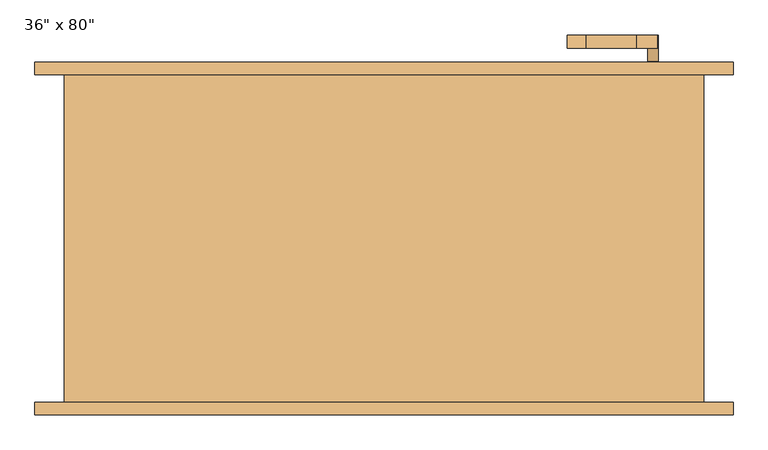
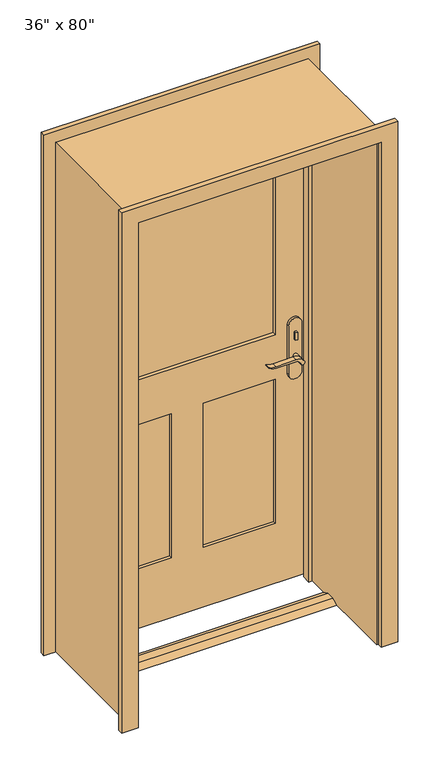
"""IFC4 building model written with IfcOpenShell, lengths in millimetres: door geometry."""

from ifc_helpers import new_model, si_unit, point, frame, frame_2d, origin, place, context, project, spatial, polyline, circle_curve, trimmed, segment, composite_curve, outline, extrude, faceted_brep, source, transform, mapped, element, save


def door_9a8c5ecc(model_context):
    return source(origin(), model_context, "Body", "SolidModel", [
        extrude(outline(polyline([(38.1, 12.7), (73.025, 12.7), (98.425, 0.0), (12.7, 0.0), (38.1, 12.7)])), frame((-457.2, 0.0, 0.0), z_axis=(1.0, 0.0, 0.0), x_axis=(0.0, 1.0, 0.0)), (0.0, 0.0, 1.0), 914.4),
        extrude(outline(polyline([(411.4, 189.55), (401.4, 189.55), (401.4, 199.55), (411.4, 199.55), (411.4, 189.55)])), frame((0.0, 0.0, 981.9), z_axis=(0.0, 0.0, 1.0), x_axis=(1.0, 0.0, 0.0)), (0.0, 0.0, 1.0), 30.0),
        extrude(outline(composite_curve([segment(trimmed(circle_curve(frame_2d((996.9, 406.4)), 8.0), [point((996.9, 398.4))], [point((996.9, 414.4))], False, "CARTESIAN"), True, "CONTINUOUS"), segment(trimmed(circle_curve(frame_2d((996.9, 406.4)), 8.0), [point((996.9, 414.4))], [point((996.9, 398.4))], False, "CARTESIAN"), True, "CONTINUOUS")], self_intersect=False)), frame((0.0, 254.475, 0.0), z_axis=(0.0, 1.0, 0.0), x_axis=(0.0, 0.0, 1.0)), (0.0, 0.0, 1.0), 10.0),
        extrude(outline(composite_curve([segment(trimmed(circle_curve(frame_2d((897.1555521, 382.7324871)), 37.2832219), [point((919.0523287, 412.9081363))], [point((934.4, 381.0325667))], False, "CARTESIAN"), True, "CONTINUOUS"), segment(polyline([(934.4, 381.0325667), (934.4, 304.7564091)]), True, "CONTINUOUS"), segment(trimmed(circle_curve(frame_2d((1017.6850638, 304.8227909)), 83.2850902), [point((934.4, 304.7564091))], [point((939.4, 276.4))], True, "CARTESIAN"), True, "CONTINUOUS"), segment(polyline([(939.4, 276.4), (936.6135558, 276.4)]), True, "CONTINUOUS"), segment(trimmed(circle_curve(frame_2d((986.6709207, 308.3396612)), 59.3791355), [point((936.6135558, 276.4))], [point((927.4, 304.7564091))], False, "CARTESIAN"), True, "CONTINUOUS"), segment(polyline([(927.4, 304.7564091), (927.4, 381.0138099)]), True, "CONTINUOUS"), segment(trimmed(circle_curve(frame_2d((909.2738613, 381.0138099)), 18.1261387), [point((927.4, 381.0138099))], [point((914.4, 398.4))], True, "CARTESIAN"), True, "CONTINUOUS"), segment(trimmed(circle_curve(frame_2d((914.4, 406.4)), 8.0), [point((914.4, 398.4))], [point((919.0523287, 412.9081363))], False, "CARTESIAN"), True, "CONTINUOUS")], self_intersect=False)), frame((0.0, 149.55, 0.0), z_axis=(0.0, 1.0, 0.0), x_axis=(0.0, 0.0, 1.0)), (0.0, 0.0, 1.0), 20.0),
        extrude(outline(composite_curve([segment(trimmed(circle_curve(frame_2d((914.4, 406.4)), 8.0), [point((914.3999903, 398.4))], [point((919.0523287, 412.9081363))], False, "CARTESIAN"), True, "CONTINUOUS"), segment(trimmed(circle_curve(frame_2d((897.1555521, 382.7324871)), 37.2832219), [point((919.0523287, 412.9081363))], [point((934.4, 381.0325667))], False, "CARTESIAN"), True, "CONTINUOUS"), segment(polyline([(934.4, 381.0325667), (934.4, 304.7564091)]), True, "CONTINUOUS"), segment(trimmed(circle_curve(frame_2d((1017.6850638, 304.8227909)), 83.2850902), [point((934.4, 304.7564091))], [point((939.4, 276.4))], True, "CARTESIAN"), True, "CONTINUOUS"), segment(polyline([(939.4, 276.4), (936.6135558, 276.4)]), True, "CONTINUOUS"), segment(trimmed(circle_curve(frame_2d((986.6709207, 308.3396612)), 59.3791355), [point((936.6135558, 276.4))], [point((927.4, 304.7564091))], False, "CARTESIAN"), True, "CONTINUOUS"), segment(polyline([(927.4, 304.7564091), (927.4, 381.0138122)]), True, "CONTINUOUS"), segment(trimmed(circle_curve(frame_2d((909.2738682, 381.0138122)), 18.1261318), [point((927.4, 381.0138122))], [point((914.3999903, 398.4))], True, "CARTESIAN"), True, "CONTINUOUS")], self_intersect=False)), frame((0.0, 284.475, 0.0), z_axis=(0.0, 1.0, 0.0), x_axis=(0.0, 0.0, 1.0)), (0.0, 0.0, 1.0), 20.0),
        extrude(outline(composite_curve([segment(trimmed(circle_curve(frame_2d((914.4, 406.4)), 8.0), [point((914.4, 398.4))], [point((914.4, 414.4))], False, "CARTESIAN"), True, "CONTINUOUS"), segment(trimmed(circle_curve(frame_2d((914.4, 406.4)), 8.0), [point((914.4, 414.4))], [point((914.4, 398.4))], False, "CARTESIAN"), True, "CONTINUOUS")], self_intersect=False)), frame((0.0, 169.55, 0.0), z_axis=(0.0, 1.0, 0.0), x_axis=(0.0, 0.0, 1.0)), (0.0, 0.0, 1.0), 30.0),
        extrude(outline(composite_curve([segment(trimmed(circle_curve(frame_2d((914.4, 406.4)), 8.0), [point((914.4, 398.4))], [point((914.4, 414.4))], False, "CARTESIAN"), True, "CONTINUOUS"), segment(trimmed(circle_curve(frame_2d((914.4, 406.4)), 8.0), [point((914.4, 414.4))], [point((914.4, 398.4))], False, "CARTESIAN"), True, "CONTINUOUS")], self_intersect=False)), frame((0.0, 254.475, 0.0), z_axis=(0.0, 1.0, 0.0), x_axis=(0.0, 0.0, 1.0)), (0.0, 0.0, 1.0), 30.0),
        extrude(outline(composite_curve([segment(polyline([(844.4, 431.4), (1039.4, 431.4)]), True, "CONTINUOUS"), segment(trimmed(circle_curve(frame_2d((1039.4, 406.4)), 25.0), [point((1039.4, 431.4))], [point((1039.4, 381.4))], False, "CARTESIAN"), True, "CONTINUOUS"), segment(polyline([(1039.4, 381.4), (844.4, 381.4)]), True, "CONTINUOUS"), segment(trimmed(circle_curve(frame_2d((844.4, 406.4)), 25.0), [point((844.4, 381.4))], [point((844.4, 431.4))], False, "CARTESIAN"), True, "CONTINUOUS")], self_intersect=False)), frame((0.0, 199.55, 0.0), z_axis=(0.0, 1.0, 0.0), x_axis=(0.0, 0.0, 1.0)), (0.0, 0.0, 1.0), 10.0),
        extrude(outline(composite_curve([segment(polyline([(844.4, 431.4), (1039.4, 431.4)]), True, "CONTINUOUS"), segment(trimmed(circle_curve(frame_2d((1039.4, 406.4)), 25.0), [point((1039.4, 431.4))], [point((1039.4, 381.4))], False, "CARTESIAN"), True, "CONTINUOUS"), segment(polyline([(1039.4, 381.4), (844.4, 381.4)]), True, "CONTINUOUS"), segment(trimmed(circle_curve(frame_2d((844.4, 406.4)), 25.0), [point((844.4, 381.4))], [point((844.4, 431.4))], False, "CARTESIAN"), True, "CONTINUOUS")], self_intersect=False)), frame((0.0, 244.475, 0.0), z_axis=(0.0, 1.0, 0.0), x_axis=(0.0, 0.0, 1.0)), (0.0, 0.0, 1.0), 10.0),
        extrude(outline(polyline([(2032.0, -457.2), (12.7, -457.2), (12.7, 457.2), (2032.0, 457.2), (2032.0, -457.2)]), holes=[polyline([(1016.0, -336.55), (1911.35, -336.55), (1911.35, 336.55), (1016.0, 336.55), (1016.0, -336.55)]), polyline([(835.025, -60.325), (254.0, -60.325), (254.0, -336.55), (835.025, -336.55), (835.025, -60.325)]), polyline([(835.025, 336.55), (254.0, 336.55), (254.0, 60.325), (835.025, 60.325), (835.025, 336.55)])]), frame((0.0, 209.55, 0.0), z_axis=(0.0, 1.0, 0.0), x_axis=(0.0, 0.0, 1.0)), (0.0, 0.0, 1.0), 34.925),
        faceted_brep([(482.6, 244.475, 0.0), (482.6, -250.825, 0.0), (457.2, -250.825, 0.0), (457.2, 174.625, 0.0), (444.5, 174.625, 0.0), (444.5, 209.55, 0.0), (457.2, 209.55, 0.0), (457.2, 244.475, 0.0), (482.6, 244.475, 2057.4), (482.6, -250.825, 2057.4), (-482.6, -250.825, 2057.4), (-482.6, -250.825, 0.0), (-457.2, -250.825, 0.0), (-457.2, -250.825, 2032.0), (457.2, -250.825, 2032.0), (457.2, 174.625, 2032.0), (-457.2, 174.625, 2032.0), (-457.2, 174.625, 0.0), (-444.5, 174.625, 0.0), (-444.5, 174.625, 2019.3), (444.5, 174.625, 2019.3), (444.5, 209.55, 2019.3), (-444.5, 209.55, 2019.3), (-444.5, 209.55, 0.0), (-457.2, 209.55, 0.0), (-457.2, 209.55, 2032.0), (457.2, 209.55, 2032.0), (457.2, 244.475, 2032.0), (-457.2, 244.475, 2032.0), (-457.2, 244.475, 0.0), (-482.6, 244.475, 0.0), (-482.6, 244.475, 2057.4)], [[[0, 1, 2, 3, 4, 5, 6, 7]], [[1, 0, 8, 9]], [[2, 1, 9, 10, 11, 12, 13, 14]], [[3, 2, 14, 15]], [[4, 3, 15, 16, 17, 18, 19, 20]], [[5, 4, 20, 21]], [[6, 5, 21, 22, 23, 24, 25, 26]], [[7, 6, 26, 27]], [[0, 7, 27, 28, 29, 30, 31, 8]], [[9, 8, 31, 10]], [[15, 14, 13, 16]], [[21, 20, 19, 22]], [[27, 26, 25, 28]], [[30, 29, 24, 23, 18, 17, 12, 11]], [[10, 31, 30, 11]], [[16, 13, 12, 17]], [[22, 19, 18, 23]], [[28, 25, 24, 29]]]),
        extrude(outline(polyline([(-60.325, 221.1916667), (-336.55, 221.1916667), (-336.55, 232.8333333), (-60.325, 232.8333333), (-60.325, 221.1916667)])), frame((0.0, 0.0, 254.0), z_axis=(0.0, 0.0, 1.0), x_axis=(1.0, 0.0, 0.0)), (0.0, 0.0, 1.0), 581.025),
        extrude(outline(polyline([(336.55, 221.1916667), (60.325, 221.1916667), (60.325, 232.8333333), (336.55, 232.8333333), (336.55, 221.1916667)])), frame((0.0, 0.0, 254.0), z_axis=(0.0, 0.0, 1.0), x_axis=(1.0, 0.0, 0.0)), (0.0, 0.0, 1.0), 581.025),
        extrude(outline(polyline([(336.55, 223.52), (-336.55, 223.52), (-336.55, 230.505), (336.55, 230.505), (336.55, 223.52)])), frame((0.0, 0.0, 1016.0), z_axis=(0.0, 0.0, 1.0), x_axis=(1.0, 0.0, 0.0)), (0.0, 0.0, 1.0), 895.35),
        extrude(outline(polyline([(0.0, -527.05), (0.0, -463.55), (2038.35, -463.55), (2038.35, 463.55), (0.0, 463.55), (0.0, 527.05), (2101.85, 527.05), (2101.85, -527.05), (0.0, -527.05)])), frame((0.0, -269.875, 0.0), z_axis=(0.0, 1.0, 0.0), x_axis=(0.0, 0.0, 1.0)), (0.0, 0.0, 1.0), 19.05),
        extrude(outline(polyline([(0.0, -527.05), (0.0, -463.55), (2038.35, -463.55), (2038.35, 463.55), (0.0, 463.55), (0.0, 527.05), (2101.85, 527.05), (2101.85, -527.05), (0.0, -527.05)])), frame((0.0, 244.475, 0.0), z_axis=(0.0, 1.0, 0.0), x_axis=(0.0, 0.0, 1.0)), (0.0, 0.0, 1.0), 19.05),
    ])


if __name__ == "__main__":
    model = new_model("IFC4")
    model_context = context("Model", 3, world=origin())
    ifc_project = project(units=[si_unit("LENGTHUNIT", "METRE", prefix="MILLI")], contexts=[model_context])
    site = spatial("IfcSite", under=ifc_project)
    building = spatial("IfcBuilding", under=site)
    placement = place(None, origin())
    door_shape = door_9a8c5ecc(model_context)
    element("IfcDoor", 1, ObjectType="Door-Exterior-Single-Entry-Half Flat Glass-Wood_Clad : 36\" x 80\"", at=placement, inside=building, context=model_context, shape_type="MappedRepresentation", body=[
        mapped(door_shape, transform((0.0, 0.0, 0.0), x_axis=(1.0, 0.0, 0.0), y_axis=(0.0, 1.0, 0.0), z_axis=(0.0, 0.0, 1.0))),
    ])
    save(model, "model.ifc")
